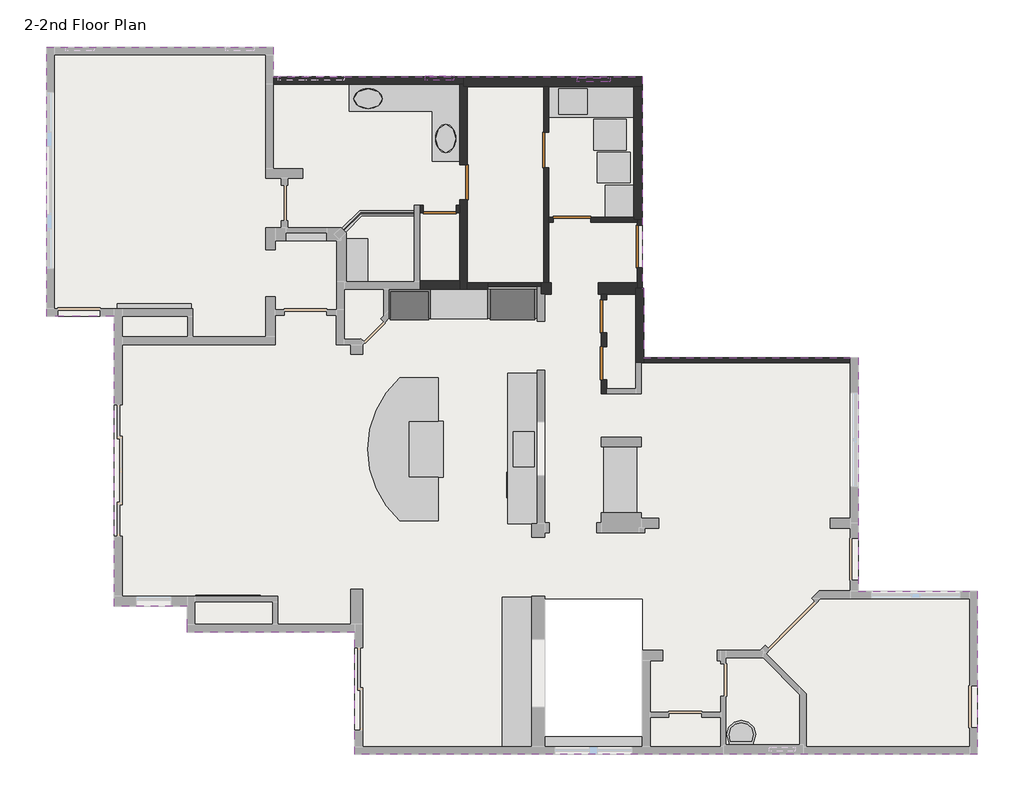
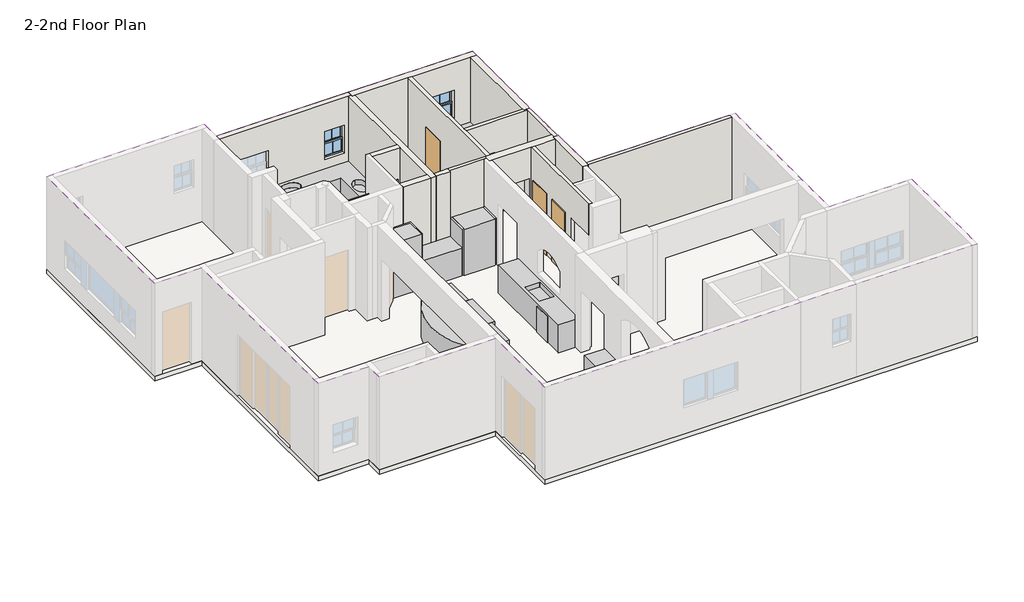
# One storey, part 3 of 3: 15 walls, 13 proxies, 10 furniture elements, 7 doors, 2 windows, 1 covering, 1 flow terminal, 1 slab.
"""IFC4 building model written with IfcOpenShell, lengths in millimetres."""

from ifc_helpers import new_model, si_unit, frame, origin, place, context, project, spatial, polyline, outline, extrude, faceted_brep, transform, mapped, element, save
from components import generic_models_10_generic_models_10_4ac16e84, generic_models_3_generic_models_3_54da6a1e, generic_models_4_generic_models_4_86da2cf7, generic_models_6_generic_models_6_da21bc6a, generic_models_7_generic_models_7_cedf5fbd, generic_models_8_generic_models_8_85dfdc42, generic_models_9_generic_models_6_d56854cf, specialty_equipment_1_specialty_equipment_1_6cf6217c, specialty_equipment_3_specialty_equipment_3_975726c7, specialty_equipment_4_specialty_equipment_4_003a8ce4, specialty_equipment_5_specialty_equipment_5_0c726e48, specialty_equipment_6_specialty_equipment_5_ca1720f7, door_64bc458f, door_f3367864, door_ae451de5, door_50b9832b, door_c53031d2, door_eaf6c470, plumbing_fixtures_1_plumbing_fixtures_1_25a78d79, casework_1_casework_1_72d0735e, casework_11_casework_11_a0dce881, casework_2_casework_2_51e8f1bf, casework_3_casework_3_68b1cbf8, casework_4_casework_4_209947f0, casework_5_casework_5_048c20d9, casework_6_casework_6_0ef7add9, casework_7_casework_7_954245c9, casework_8_casework_8_02e97182, casework_9_casework_9_592b6bdc, window_7c996b03, window_f0850236

model = new_model("IFC4")

# Units and contexts
model_context = context("Model", 3, world=origin())
ifc_project = project(units=[si_unit("LENGTHUNIT", "METRE", prefix="MILLI")], contexts=[model_context])

# Site, building, storey
site = spatial("IfcSite", under=ifc_project)
building = spatial("IfcBuilding", under=site)
storey = spatial("IfcBuildingStorey", under=building, Name="2-2nd Floor Plan", Elevation=3348.0)

# Proxies
placement = place(None, origin())
generic_models_10_generic_models_10_shape = generic_models_10_generic_models_10_4ac16e84(model_context)
element("IfcBuildingElementProxy", 1, Name="Generic Models 10 : Generic Models 10", ObjectType="Generic Models 10 : Generic Models 10", at=placement, inside=storey, context=model_context, shape_type="MappedRepresentation", body=[
    mapped(generic_models_10_generic_models_10_shape, transform((0.0, 0.0, 0.0), x_axis=(1.0, 0.0, 0.0), y_axis=(0.0, 1.0, 0.0), z_axis=(0.0, 0.0, 1.0))),
])
generic_models_3_generic_models_3_shape = generic_models_3_generic_models_3_54da6a1e(model_context)
element("IfcBuildingElementProxy", 2, Name="Generic Models 3 : Generic Models 3", ObjectType="Generic Models 3 : Generic Models 3", at=placement, inside=storey, context=model_context, shape_type="MappedRepresentation", body=[
    mapped(generic_models_3_generic_models_3_shape, transform((0.0, 0.0, 0.0), x_axis=(1.0, 0.0, 0.0), y_axis=(0.0, 1.0, 0.0), z_axis=(0.0, 0.0, 1.0))),
])
generic_models_4_generic_models_4_shape = generic_models_4_generic_models_4_86da2cf7(model_context)
element("IfcBuildingElementProxy", 3, Name="Generic Models 4 : Generic Models 4", ObjectType="Generic Models 4 : Generic Models 4", at=placement, inside=storey, context=model_context, shape_type="MappedRepresentation", body=[
    mapped(generic_models_4_generic_models_4_shape, transform((0.0, 0.0, 0.0), x_axis=(1.0, 0.0, 0.0), y_axis=(0.0, 1.0, 0.0), z_axis=(0.0, 0.0, 1.0))),
])
generic_models_6_generic_models_6_shape = generic_models_6_generic_models_6_da21bc6a(model_context)
element("IfcBuildingElementProxy", 4, Name="Generic Models 6 : Generic Models 6", ObjectType="Generic Models 6 : Generic Models 6", at=placement, inside=storey, context=model_context, shape_type="MappedRepresentation", body=[
    mapped(generic_models_6_generic_models_6_shape, transform((0.0, 0.0, 0.0), x_axis=(1.0, 0.0, 0.0), y_axis=(0.0, 1.0, 0.0), z_axis=(0.0, 0.0, 1.0))),
])
generic_models_7_generic_models_7_shape = generic_models_7_generic_models_7_cedf5fbd(model_context)
element("IfcBuildingElementProxy", 5, Name="Generic Models 7 : Generic Models 7", ObjectType="Generic Models 7 : Generic Models 7", at=placement, inside=storey, context=model_context, shape_type="MappedRepresentation", body=[
    mapped(generic_models_7_generic_models_7_shape, transform((0.0, 0.0, 0.0), x_axis=(1.0, 0.0, 0.0), y_axis=(0.0, 1.0, 0.0), z_axis=(0.0, 0.0, 1.0))),
])
generic_models_8_generic_models_8_shape = generic_models_8_generic_models_8_85dfdc42(model_context)
element("IfcBuildingElementProxy", 6, Name="Generic Models 8 : Generic Models 8", ObjectType="Generic Models 8 : Generic Models 8", at=placement, inside=storey, context=model_context, shape_type="MappedRepresentation", body=[
    mapped(generic_models_8_generic_models_8_shape, transform((0.0, 0.0, 0.0), x_axis=(1.0, 0.0, 0.0), y_axis=(0.0, 1.0, 0.0), z_axis=(0.0, 0.0, 1.0))),
])
generic_models_9_generic_models_6_shape = generic_models_9_generic_models_6_d56854cf(model_context)
element("IfcBuildingElementProxy", 7, Name="Generic Models 9 : Generic Models 6", ObjectType="Generic Models 9 : Generic Models 6", at=placement, inside=storey, context=model_context, shape_type="MappedRepresentation", body=[
    mapped(generic_models_9_generic_models_6_shape, transform((0.0, 0.0, 0.0), x_axis=(1.0, 0.0, 0.0), y_axis=(0.0, 1.0, 0.0), z_axis=(0.0, 0.0, 1.0))),
])
specialty_equipment_1_specialty_equipment_1_shape = specialty_equipment_1_specialty_equipment_1_6cf6217c(model_context)
element("IfcBuildingElementProxy", 8, Name="Specialty Equipment 1 : Specialty Equipment 1", ObjectType="Specialty Equipment 1 : Specialty Equipment 1", at=placement, inside=storey, context=model_context, shape_type="MappedRepresentation", body=[
    mapped(specialty_equipment_1_specialty_equipment_1_shape, transform((0.0, 0.0, 0.0), x_axis=(1.0, 0.0, 0.0), y_axis=(0.0, 1.0, 0.0), z_axis=(0.0, 0.0, 1.0))),
])
element("IfcBuildingElementProxy", 9, Name="Specialty Equipment 2 : Specialty Equipment 1", ObjectType="Specialty Equipment 2 : Specialty Equipment 1", at=placement, inside=storey, context=model_context, shape_type="MappedRepresentation", body=[
    mapped(specialty_equipment_1_specialty_equipment_1_shape, transform((76.2, -711.1999987, 0.0), x_axis=(1.0, 0.0, 0.0), y_axis=(0.0, 1.0, 0.0), z_axis=(0.0, 0.0, 1.0))),
])
specialty_equipment_3_specialty_equipment_3_shape = specialty_equipment_3_specialty_equipment_3_975726c7(model_context)
element("IfcBuildingElementProxy", 10, Name="Specialty Equipment 3 : Specialty Equipment 3", ObjectType="Specialty Equipment 3 : Specialty Equipment 3", at=placement, inside=storey, context=model_context, shape_type="MappedRepresentation", body=[
    mapped(specialty_equipment_3_specialty_equipment_3_shape, transform((0.0, 0.0, 0.0), x_axis=(1.0, 0.0, 0.0), y_axis=(0.0, 1.0, 0.0), z_axis=(0.0, 0.0, 1.0))),
])
specialty_equipment_4_specialty_equipment_4_shape = specialty_equipment_4_specialty_equipment_4_003a8ce4(model_context)
element("IfcBuildingElementProxy", 11, Name="Specialty Equipment 4 : Specialty Equipment 4", ObjectType="Specialty Equipment 4 : Specialty Equipment 4", at=placement, inside=storey, context=model_context, shape_type="MappedRepresentation", body=[
    mapped(specialty_equipment_4_specialty_equipment_4_shape, transform((0.0, 0.0, 0.0), x_axis=(1.0, 0.0, 0.0), y_axis=(0.0, 1.0, 0.0), z_axis=(0.0, 0.0, 1.0))),
])
specialty_equipment_5_specialty_equipment_5_shape = specialty_equipment_5_specialty_equipment_5_0c726e48(model_context)
element("IfcBuildingElementProxy", 12, Name="Specialty Equipment 5 : Specialty Equipment 5", ObjectType="Specialty Equipment 5 : Specialty Equipment 5", at=placement, inside=storey, context=model_context, shape_type="MappedRepresentation", body=[
    mapped(specialty_equipment_5_specialty_equipment_5_shape, transform((0.0, 0.0, 0.0), x_axis=(1.0, 0.0, 0.0), y_axis=(0.0, 1.0, 0.0), z_axis=(0.0, 0.0, 1.0))),
])
specialty_equipment_6_specialty_equipment_5_shape = specialty_equipment_6_specialty_equipment_5_ca1720f7(model_context)
element("IfcBuildingElementProxy", 13, Name="Specialty Equipment 6 : Specialty Equipment 5", ObjectType="Specialty Equipment 6 : Specialty Equipment 5", at=placement, inside=storey, context=model_context, shape_type="MappedRepresentation", body=[
    mapped(specialty_equipment_6_specialty_equipment_5_shape, transform((0.0, 0.0, 0.0), x_axis=(1.0, 0.0, 0.0), y_axis=(0.0, 1.0, 0.0), z_axis=(0.0, 0.0, 1.0))),
])

# Covering
element("IfcCovering", 14, ObjectType="Ceiling_5.9\"", at=placement, inside=storey, context=model_context, shape_type="SweptSolid", body=[
    extrude(outline(polyline([(-6661.15, 9461.5), (-6661.15, 15278.1), (-1758.95, 15278.1), (-1758.95, 14642.9947939), (6210.3, 14642.9947939), (6210.3, 10064.6447939), (6235.7, 10064.6447939), (6235.7, 8572.5), (10871.2, 8572.5), (10871.2, 3524.25), (13449.3, 3524.25), (13449.3, 0.0), (0.0, 0.0), (0.0, 2641.6), (-3619.5, 2641.6), (-3619.5, 3200.4), (-5194.3, 3200.4), (-5194.3, 9461.5), (-6661.15, 9461.5)])), frame((0.0, 0.0, 6396.0), z_axis=(0.0, 0.0, 1.0), x_axis=(1.0, 0.0, 0.0)), (0.0, 0.0, 1.0), 150.0),
])

# Doors
door_shape = door_64bc458f(model_context)
element("IfcDoor", 15, ObjectType="Door_1 : 2'-4\" X 6'-8\"", at=placement, inside=storey, context=model_context, shape_type="MappedRepresentation", body=[
    mapped(door_shape, transform((5378.45, 9461.3947939, 3348.0), x_axis=(0.0, -1.0, 0.0), y_axis=(1.0, 0.0, 0.0), z_axis=(0.0, 0.0, 1.0))),
])
element("IfcDoor", 16, ObjectType="Door_1 : 2'-4\" X 6'-8\"", at=placement, inside=storey, context=model_context, shape_type="MappedRepresentation", body=[
    mapped(door_shape, transform((5378.45, 8445.3947939, 3348.0), x_axis=(0.0, -1.0, 0.0), y_axis=(1.0, 0.0, 0.0), z_axis=(0.0, 0.0, 1.0))),
])
door_2_shape = door_f3367864(model_context)
element("IfcDoor", 17, ObjectType="Door_1 : 2'-4\" X 6'-8\"", at=placement, inside=storey, context=model_context, shape_type="MappedRepresentation", body=[
    mapped(door_2_shape, transform((1828.8, 11779.1447939, 3348.0), x_axis=(1.0, 0.0, 0.0), y_axis=(0.0, 1.0, 0.0), z_axis=(0.0, 0.0, 1.0))),
])
door_3_shape = door_ae451de5(model_context)
element("IfcDoor", 18, ObjectType="Door_1 : 2'-6\" X 6'-8\"", at=placement, inside=storey, context=model_context, shape_type="MappedRepresentation", body=[
    mapped(door_3_shape, transform((4133.85, 13055.4947939, 3348.0), x_axis=(0.0, 1.0, 0.0), y_axis=(-1.0, 0.0, 0.0), z_axis=(0.0, 0.0, 1.0))),
])
door_4_shape = door_50b9832b(model_context)
element("IfcDoor", 19, ObjectType="Door_1 : 2'-6\" X 6'-8\"", at=placement, inside=storey, context=model_context, shape_type="MappedRepresentation", body=[
    mapped(door_4_shape, transform((2343.15, 12356.9947939, 3348.0), x_axis=(0.0, -1.0, 0.0), y_axis=(1.0, 0.0, 0.0), z_axis=(0.0, 0.0, 1.0))),
])
door_5_shape = door_c53031d2(model_context)
element("IfcDoor", 20, ObjectType="Door_1 : 2'-8\" X 6'-8\"", at=placement, inside=storey, context=model_context, shape_type="MappedRepresentation", body=[
    mapped(door_5_shape, transform((4692.65, 11550.5447939, 3348.0), x_axis=(-1.0, 0.0, 0.0), y_axis=(0.0, -1.0, 0.0), z_axis=(0.0, 0.0, 1.0))),
])
door_6_shape = door_eaf6c470(model_context)
element("IfcDoor", 21, ObjectType="Door_1 : 3'-0\" X 6'-8\"", at=placement, inside=storey, context=model_context, shape_type="MappedRepresentation", body=[
    mapped(door_6_shape, transform((6153.15, 10972.6947939, 3348.0), x_axis=(0.0, 1.0, 0.0), y_axis=(-1.0, 0.0, 0.0), z_axis=(0.0, 0.0, 1.0))),
])

# Flow terminal
plumbing_fixtures_1_plumbing_fixtures_1_shape = plumbing_fixtures_1_plumbing_fixtures_1_25a78d79(model_context)
element("IfcFlowTerminal", 22, ObjectType="Plumbing Fixtures 1 : Plumbing Fixtures 1", at=placement, inside=storey, context=model_context, shape_type="MappedRepresentation", body=[
    mapped(plumbing_fixtures_1_plumbing_fixtures_1_shape, transform((0.0, 0.0, 0.0), x_axis=(1.0, 0.0, 0.0), y_axis=(0.0, 1.0, 0.0), z_axis=(0.0, 0.0, 1.0))),
])

# Furniture
casework_1_casework_1_shape = casework_1_casework_1_72d0735e(model_context)
element("IfcFurniture", 23, ObjectType="Casework 1 : Casework 1", at=placement, inside=storey, context=model_context, shape_type="MappedRepresentation", body=[
    mapped(casework_1_casework_1_shape, transform((0.0, 0.0, 0.0), x_axis=(1.0, 0.0, 0.0), y_axis=(0.0, 1.0, 0.0), z_axis=(0.0, 0.0, 1.0))),
])
casework_11_casework_11_shape = casework_11_casework_11_a0dce881(model_context)
element("IfcFurniture", 24, ObjectType="Casework 11 : Casework 11", at=placement, inside=storey, context=model_context, shape_type="MappedRepresentation", body=[
    mapped(casework_11_casework_11_shape, transform((0.0, 0.0, 0.0), x_axis=(1.0, 0.0, 0.0), y_axis=(0.0, 1.0, 0.0), z_axis=(0.0, 0.0, 1.0))),
])
casework_2_casework_2_shape = casework_2_casework_2_51e8f1bf(model_context)
element("IfcFurniture", 25, ObjectType="Casework 2 : Casework 2", at=placement, inside=storey, context=model_context, shape_type="MappedRepresentation", body=[
    mapped(casework_2_casework_2_shape, transform((0.0, 0.0, 0.0), x_axis=(1.0, 0.0, 0.0), y_axis=(0.0, 1.0, 0.0), z_axis=(0.0, 0.0, 1.0))),
])
casework_3_casework_3_shape = casework_3_casework_3_68b1cbf8(model_context)
element("IfcFurniture", 26, ObjectType="Casework 3 : Casework 3", at=placement, inside=storey, context=model_context, shape_type="MappedRepresentation", body=[
    mapped(casework_3_casework_3_shape, transform((0.0, 0.0, 0.0), x_axis=(1.0, 0.0, 0.0), y_axis=(0.0, 1.0, 0.0), z_axis=(0.0, 0.0, 1.0))),
])
casework_4_casework_4_shape = casework_4_casework_4_209947f0(model_context)
element("IfcFurniture", 27, ObjectType="Casework 4 : Casework 4", at=placement, inside=storey, context=model_context, shape_type="MappedRepresentation", body=[
    mapped(casework_4_casework_4_shape, transform((0.0, 0.0, 0.0), x_axis=(1.0, 0.0, 0.0), y_axis=(0.0, 1.0, 0.0), z_axis=(0.0, 0.0, 1.0))),
])
casework_5_casework_5_shape = casework_5_casework_5_048c20d9(model_context)
element("IfcFurniture", 28, ObjectType="Casework 5 : Casework 5", at=placement, inside=storey, context=model_context, shape_type="MappedRepresentation", body=[
    mapped(casework_5_casework_5_shape, transform((0.0, 0.0, 0.0), x_axis=(1.0, 0.0, 0.0), y_axis=(0.0, 1.0, 0.0), z_axis=(0.0, 0.0, 1.0))),
])
casework_6_casework_6_shape = casework_6_casework_6_0ef7add9(model_context)
element("IfcFurniture", 29, ObjectType="Casework 6 : Casework 6", at=placement, inside=storey, context=model_context, shape_type="MappedRepresentation", body=[
    mapped(casework_6_casework_6_shape, transform((0.0, 0.0, 0.0), x_axis=(1.0, 0.0, 0.0), y_axis=(0.0, 1.0, 0.0), z_axis=(0.0, 0.0, 1.0))),
])
casework_7_casework_7_shape = casework_7_casework_7_954245c9(model_context)
element("IfcFurniture", 30, ObjectType="Casework 7 : Casework 7", at=placement, inside=storey, context=model_context, shape_type="MappedRepresentation", body=[
    mapped(casework_7_casework_7_shape, transform((0.0, 0.0, 0.0), x_axis=(1.0, 0.0, 0.0), y_axis=(0.0, 1.0, 0.0), z_axis=(0.0, 0.0, 1.0))),
])
casework_8_casework_8_shape = casework_8_casework_8_02e97182(model_context)
element("IfcFurniture", 31, ObjectType="Casework 8 : Casework 8", at=placement, inside=storey, context=model_context, shape_type="MappedRepresentation", body=[
    mapped(casework_8_casework_8_shape, transform((0.0, 0.0, 0.0), x_axis=(1.0, 0.0, 0.0), y_axis=(0.0, 1.0, 0.0), z_axis=(0.0, 0.0, 1.0))),
])
casework_9_casework_9_shape = casework_9_casework_9_592b6bdc(model_context)
element("IfcFurniture", 32, ObjectType="Casework 9 : Casework 9", at=placement, inside=storey, context=model_context, shape_type="MappedRepresentation", body=[
    mapped(casework_9_casework_9_shape, transform((0.0, 0.0, 0.0), x_axis=(1.0, 0.0, 0.0), y_axis=(0.0, 1.0, 0.0), z_axis=(0.0, 0.0, 1.0))),
])

# Slab
element("IfcSlab", 33, ObjectType="Floor:Floor_5.9\"", at=placement, inside=storey, context=model_context, shape_type="SweptSolid", body=[
    extrude(outline(polyline([(-6661.15, 9461.5), (-6661.15, 15278.1), (-1758.95, 15278.1), (-1758.95, 14642.9947939), (6210.3, 14642.9947939), (6210.3, 10064.6447939), (6235.7, 10064.6447939), (6235.7, 8572.5), (10871.2, 8572.5), (10871.2, 3524.25), (13449.3, 3524.25), (13449.3, 0.0), (0.0, 0.0), (0.0, 2641.6), (-3619.5, 2641.6), (-3619.5, 3200.4), (-5194.3, 3200.4), (-5194.3, 9461.5), (-6661.15, 9461.5)]), holes=[polyline([(4102.1, 3352.8), (4102.1, 165.1), (6210.3, 165.1), (6210.3, 3352.8), (4102.1, 3352.8)])]), frame((0.0, 0.0, 3198.0), z_axis=(0.0, 0.0, 1.0), x_axis=(1.0, 0.0, 0.0)), (0.0, 0.0, 1.0), 150.0),
])

# Walls
element("IfcWall", 34, ObjectType="Wall_3.5\"", at=placement, inside=storey, context=model_context, shape_type="Brep", body=[
    faceted_brep([(2870.2, 10096.5, 3348.0), (3937.0, 10096.5, 3348.0), (4019.55, 10096.5, 3348.0), (4019.55, 10096.5, 6396.0), (3937.0, 10096.5, 6396.0), (2870.2, 10096.5, 6396.0), (2870.2, 10185.4, 3348.0), (2870.2, 10185.4, 6396.0), (4019.55, 10185.4, 6396.0), (4019.55, 10185.4, 3348.0)], [[[0, 1, 2, 3, 4, 5]], [[6, 7, 8, 9]], [[2, 1, 0, 6, 9]], [[3, 2, 9, 8]], [[5, 4, 3, 8, 7]], [[0, 5, 7, 6]]]),
])
element("IfcWall", 35, ObjectType="Wall_4.5\"", at=placement, inside=storey, context=model_context, shape_type="Brep", body=[
    faceted_brep([(6096.0, 11550.5447939, 3348.0), (6096.0, 11493.3947939, 3348.0), (6096.0, 11429.8947939, 3348.0), (6096.0, 11429.8947939, 5380.0), (6096.0, 10515.4947939, 5380.0), (6096.0, 10515.4947939, 3348.0), (6096.0, 10185.2947939, 3348.0), (6096.0, 10064.6447939, 3348.0), (6096.0, 10064.6447939, 6396.0), (6096.0, 10185.2947939, 6396.0), (6096.0, 11493.3947939, 6396.0), (6096.0, 11550.5447939, 6396.0), (6210.3, 11429.8947939, 5380.0), (6210.3, 11429.8947939, 3348.0), (6210.3, 11550.5447939, 3348.0), (6210.3, 11550.5447939, 6396.0), (6210.3, 10064.6447939, 6396.0), (6210.3, 10064.6447939, 3348.0), (6210.3, 10515.4947939, 3348.0), (6210.3, 10515.4947939, 5380.0)], [[[0, 1, 2, 3, 4, 5, 6, 7, 8, 9, 10, 11]], [[12, 13, 14, 15, 16, 17, 18, 19]], [[18, 17, 7, 6, 5]], [[14, 13, 2, 1, 0]], [[8, 7, 17, 16]], [[11, 10, 9, 8, 16, 15]], [[0, 11, 15, 14]], [[3, 2, 13, 12]], [[4, 3, 12, 19]], [[5, 4, 19, 18]]]),
])
element("IfcWall", 36, ObjectType="Wall_4.5\"", at=placement, inside=storey, context=model_context, shape_type="SweptSolid", body=[
    extrude(outline(polyline([(6235.7, 8572.5), (10706.1, 8572.5), (10706.1, 8458.2), (6235.7, 8458.2), (6235.7, 8572.5)])), frame((0.0, 0.0, 3348.0), z_axis=(0.0, 0.0, 1.0), x_axis=(1.0, 0.0, 0.0)), (0.0, 0.0, 1.0), 3048.0),
])
element("IfcWall", 37, ObjectType="Wall_4.5\"", at=placement, inside=storey, context=model_context, shape_type="Brep", body=[
    faceted_brep([(4076.7, 14427.0947939, 3348.0), (4076.7, 13436.4947939, 3348.0), (4076.7, 13436.4947939, 5380.0), (4076.7, 12674.4947939, 5380.0), (4076.7, 12674.4947939, 3348.0), (4076.7, 10185.2947939, 3348.0), (4076.7, 10185.2947939, 6396.0), (4076.7, 14427.0947939, 6396.0), (4191.0, 13436.4947939, 5380.0), (4191.0, 13436.4947939, 3348.0), (4191.0, 14427.0947939, 3348.0), (4191.0, 14427.0947939, 6396.0), (4191.0, 11607.6947939, 6396.0), (4191.0, 11493.3947939, 6396.0), (4191.0, 10185.2947939, 6396.0), (4191.0, 10185.2947939, 3348.0), (4191.0, 11493.3947939, 3348.0), (4191.0, 11607.6947939, 3348.0), (4191.0, 12674.4947939, 3348.0), (4191.0, 12674.4947939, 5380.0)], [[[0, 1, 2, 3, 4, 5, 6, 7]], [[8, 9, 10, 11, 12, 13, 14, 15, 16, 17, 18, 19]], [[10, 9, 1, 0]], [[18, 17, 16, 15, 5, 4]], [[7, 6, 14, 13, 12, 11]], [[0, 7, 11, 10]], [[2, 1, 9, 8]], [[3, 2, 8, 19]], [[4, 3, 19, 18]], [[6, 5, 15, 14]]]),
])
element("IfcWall", 38, ObjectType="Wall_4.5\"", at=placement, inside=storey, context=model_context, shape_type="Brep", body=[
    faceted_brep([(4286.25, 11607.6947939, 5380.0), (4286.25, 11607.6947939, 3348.0), (4191.0, 11607.6947939, 3348.0), (4191.0, 11607.6947939, 6396.0), (6019.8, 11607.6947939, 6396.0), (6019.8, 11607.6947939, 3348.0), (5099.05, 11607.6947939, 3348.0), (5099.05, 11607.6947939, 5380.0), (4191.0, 11493.3947939, 3348.0), (4286.25, 11493.3947939, 3348.0), (4286.25, 11493.3947939, 5380.0), (5099.05, 11493.3947939, 5380.0), (5099.05, 11493.3947939, 3348.0), (6096.0, 11493.3947939, 3348.0), (6096.0, 11493.3947939, 6396.0), (4191.0, 11493.3947939, 6396.0), (6019.8, 11550.5447939, 3348.0), (6096.0, 11550.5447939, 3348.0), (6096.0, 11550.5447939, 6396.0), (6019.8, 11550.5447939, 6396.0)], [[[0, 1, 2, 3, 4, 5, 6, 7]], [[8, 9, 10, 11, 12, 13, 14, 15]], [[6, 5, 16, 17, 13, 12]], [[2, 1, 9, 8]], [[4, 3, 15, 14, 18, 19]], [[5, 4, 19, 16]], [[19, 18, 17, 16]], [[18, 14, 13, 17]], [[3, 2, 8, 15]], [[10, 9, 1, 0]], [[11, 10, 0, 7]], [[12, 11, 7, 6]]]),
])
element("IfcWall", 39, ObjectType="Wall_4.5\"", at=placement, inside=storey, context=model_context, shape_type="Brep", body=[
    faceted_brep([(5435.6, 9943.9947939, 6396.0), (5435.6, 7899.2947939, 6396.0), (5435.6, 7784.9947939, 6396.0), (5435.6, 6845.1947939, 6396.0), (5435.6, 6845.1947939, 5380.0), (5435.6, 7784.9947939, 5380.0), (5435.6, 7784.9947939, 3348.0), (5435.6, 7899.2947939, 3348.0), (5435.6, 8089.7947939, 3348.0), (5435.6, 8089.7947939, 5380.0), (5435.6, 8800.9947939, 5380.0), (5435.6, 8800.9947939, 3348.0), (5435.6, 9105.7947939, 3348.0), (5435.6, 9105.7947939, 5380.0), (5435.6, 9816.9947939, 5380.0), (5435.6, 9816.9947939, 3348.0), (5435.6, 9943.9947939, 3348.0), (5321.3, 6845.1947939, 6396.0), (5321.3, 9943.9947939, 6396.0), (5321.3, 9943.9947939, 3348.0), (5321.3, 9816.9947939, 3348.0), (5321.3, 9816.9947939, 5380.0), (5321.3, 9105.7947939, 5380.0), (5321.3, 9105.7947939, 3348.0), (5321.3, 8800.9947939, 3348.0), (5321.3, 8800.9947939, 5380.0), (5321.3, 8089.7947939, 5380.0), (5321.3, 8089.7947939, 3348.0), (5321.3, 7784.9947939, 3348.0), (5321.3, 7784.9947939, 5380.0), (5321.3, 6845.1947939, 5380.0)], [[[0, 1, 2, 3, 4, 5, 6, 7, 8, 9, 10, 11, 12, 13, 14, 15, 16]], [[17, 18, 19, 20, 21, 22, 23, 24, 25, 26, 27, 28, 29, 30]], [[19, 16, 15, 20]], [[23, 12, 11, 24]], [[27, 8, 7, 6, 28]], [[3, 2, 1, 0, 18, 17]], [[0, 16, 19, 18]], [[15, 14, 21, 20]], [[14, 13, 22, 21]], [[13, 12, 23, 22]], [[11, 10, 25, 24]], [[10, 9, 26, 25]], [[9, 8, 27, 26]], [[3, 17, 30, 4]], [[29, 5, 4, 30]], [[5, 29, 28, 6]]]),
])
element("IfcWall", 40, ObjectType="Wall_5.5\"", at=placement, inside=storey, context=model_context, shape_type="Brep", body=[
    faceted_brep([(2425.7, 10045.7, 3348.0), (2870.2, 10045.7, 3348.0), (2870.2, 10045.7, 6396.0), (2425.7, 10045.7, 6396.0), (2425.7, 10185.4, 3348.0), (2425.7, 10185.4, 6396.0), (2870.2, 10185.4, 6396.0), (2870.2, 10185.4, 3348.0), (2870.2, 10096.5, 3348.0), (2870.2, 10096.5, 6396.0)], [[[0, 1, 2, 3]], [[4, 5, 6, 7]], [[1, 0, 4, 7, 8]], [[2, 1, 8, 7, 6, 9]], [[3, 2, 9, 6, 5]], [[0, 3, 5, 4]]]),
])
element("IfcWall", 41, ObjectType="Wall_6.5\"", at=placement, inside=storey, context=model_context, shape_type="Brep", body=[
    faceted_brep([(-1758.95, 14477.8947939, 3348.0), (2260.6, 14477.8947939, 3348.0), (2343.15, 14477.8947939, 3348.0), (2343.15, 14477.8947939, 6396.0), (2260.6, 14477.8947939, 6396.0), (-1758.95, 14477.8947939, 6396.0), (1524.0, 14477.8947939, 5481.6), (2133.6, 14477.8947939, 5481.6), (2133.6, 14477.8947939, 4567.2), (1524.0, 14477.8947939, 4567.2), (-1651.0, 14477.8947939, 5481.6), (-228.6, 14477.8947939, 5481.6), (-228.6, 14477.8947939, 4567.2), (-1651.0, 14477.8947939, 4567.2), (-1758.95, 14642.9947939, 3348.0), (-1758.95, 14642.9947939, 6396.0), (2343.15, 14642.9947939, 6396.0), (2343.15, 14642.9947939, 3348.0), (1524.0, 14642.9947939, 5481.6), (1524.0, 14642.9947939, 4567.2), (2133.6, 14642.9947939, 4567.2), (2133.6, 14642.9947939, 5481.6), (-1651.0, 14642.9947939, 5481.6), (-1651.0, 14642.9947939, 4567.2), (-228.6, 14642.9947939, 4567.2), (-228.6, 14642.9947939, 5481.6)], [[[0, 1, 2, 3, 4, 5], [6, 7, 8, 9], [10, 11, 12, 13]], [[14, 15, 16, 17], [18, 19, 20, 21], [22, 23, 24, 25]], [[2, 1, 0, 14, 17]], [[3, 2, 17, 16]], [[5, 4, 3, 16, 15]], [[0, 5, 15, 14]], [[19, 18, 6, 9]], [[20, 19, 9, 8]], [[21, 20, 8, 7]], [[18, 21, 7, 6]], [[23, 22, 10, 13]], [[24, 23, 13, 12]], [[25, 24, 12, 11]], [[22, 25, 11, 10]]]),
])
element("IfcWall", 42, ObjectType="Wall_6.5\"", at=placement, inside=storey, context=model_context, shape_type="Brep", body=[
    faceted_brep([(6070.6, 10064.6447939, 3348.0), (6070.6, 9943.9947939, 3348.0), (6070.6, 8458.2, 3348.0), (6070.6, 8458.2, 6396.0), (6070.6, 9943.9947939, 6396.0), (6070.6, 10064.6447939, 6396.0), (6235.7, 10064.6447939, 3348.0), (6235.7, 10064.6447939, 6396.0), (6235.7, 8572.5, 6396.0), (6235.7, 8458.2, 6396.0), (6235.7, 8458.2, 3348.0), (6235.7, 8572.5, 3348.0), (6096.0, 10064.6447939, 3348.0), (6210.3, 10064.6447939, 3348.0), (6184.8999991, 8458.2, 3348.0), (6184.8999991, 8458.2, 6396.0), (6210.3, 10064.6447939, 6396.0), (6096.0, 10064.6447939, 6396.0)], [[[0, 1, 2, 3, 4, 5]], [[6, 7, 8, 9, 10, 11]], [[2, 1, 0, 12, 13, 6, 11, 10, 14]], [[5, 4, 3, 15, 9, 8, 7, 16, 17]], [[0, 5, 17, 16, 7, 6, 13, 12]], [[3, 2, 14, 10, 9, 15]]]),
])
element("IfcWall", 43, ObjectType="Wall_6.5\"", at=placement, inside=storey, context=model_context, shape_type="SweptSolid", body=[
    extrude(outline(polyline([(5380.0, 2184.4), (3348.0, 2184.4), (3348.0, 2260.6), (6396.0, 2260.6), (6396.0, 1397.0), (3348.0, 1397.0), (3348.0, 1473.2), (5380.0, 1473.2), (5380.0, 2184.4)])), frame((0.0, 11696.5947939, 0.0), z_axis=(0.0, 1.0, 0.0), x_axis=(0.0, 0.0, 1.0)), (0.0, 0.0, 1.0), 165.1),
])
element("IfcWall", 44, ObjectType="Wall_6.5\"", at=placement, inside=storey, context=model_context, shape_type="Brep", body=[
    faceted_brep([(2425.7, 10045.7, 3348.0), (2425.7, 10185.4, 3348.0), (2425.7, 11975.9947939, 3348.0), (2425.7, 11975.9947939, 5380.0), (2425.7, 12737.9947939, 5380.0), (2425.7, 12737.9947939, 3348.0), (2425.7, 14427.0947939, 3348.0), (2425.7, 14427.0947939, 6396.0), (2425.7, 10185.4, 6396.0), (2425.7, 10045.7, 6396.0), (2260.6, 11975.9947939, 5380.0), (2260.6, 11975.9947939, 3348.0), (2260.6, 11861.6947939, 3348.0), (2260.6, 11696.5947939, 3348.0), (2260.6, 10236.2, 3348.0), (2260.6, 10045.7, 3348.0), (2260.6, 10045.7, 6396.0), (2260.6, 10236.2, 6396.0), (2260.6, 11696.5947939, 6396.0), (2260.6, 11861.6947939, 6396.0), (2260.6, 14477.8947939, 6396.0), (2260.6, 14477.8947939, 3348.0), (2260.6, 12737.9947939, 3348.0), (2260.6, 12737.9947939, 5380.0), (2343.15, 14477.8947939, 3348.0), (2343.15, 14427.0947939, 3348.0), (2343.15, 14427.0947939, 6396.0), (2343.15, 14477.8947939, 6396.0)], [[[0, 1, 2, 3, 4, 5, 6, 7, 8, 9]], [[10, 11, 12, 13, 14, 15, 16, 17, 18, 19, 20, 21, 22, 23]], [[22, 21, 24, 25, 6, 5]], [[15, 14, 13, 12, 11, 2, 1, 0]], [[9, 8, 7, 26, 27, 20, 19, 18, 17, 16]], [[0, 9, 16, 15]], [[7, 6, 25, 26]], [[25, 24, 27, 26]], [[24, 21, 20, 27]], [[3, 2, 11, 10]], [[4, 3, 10, 23]], [[5, 4, 23, 22]]]),
])
element("IfcWall", 45, ObjectType="Wall_7.5\"", at=placement, inside=storey, context=model_context, shape_type="Brep", body=[
    faceted_brep([(6019.8, 14427.0947939, 3348.0), (6019.8, 11607.6947939, 3348.0), (6019.8, 11550.5447939, 3348.0), (6019.8, 11550.5447939, 6396.0), (6019.8, 11607.6947939, 6396.0), (6019.8, 14427.0947939, 6396.0), (6019.8, 13449.1947939, 4364.0), (6019.8, 13652.3947939, 4364.0), (6019.8, 13652.3947939, 4516.4), (6019.8, 13449.1947939, 4516.4), (6210.3, 11550.5447939, 3348.0), (6210.3, 14427.0947939, 3348.0), (6210.3, 14427.0947939, 6396.0), (6210.3, 11550.5447939, 6396.0), (6096.0, 11550.5447939, 3348.0), (6096.0, 11550.5447939, 6396.0), (6096.0, 13449.1947939, 4364.0), (6096.0, 13652.3947939, 4364.0), (6096.0, 13652.3947939, 4516.4), (6096.0, 13449.1947939, 4516.4)], [[[0, 1, 2, 3, 4, 5], [6, 7, 8, 9]], [[10, 11, 12, 13]], [[2, 1, 0, 11, 10, 14]], [[3, 2, 14, 10, 13, 15]], [[5, 4, 3, 15, 13, 12]], [[0, 5, 12, 11]], [[6, 16, 17, 7]], [[8, 18, 19, 9]], [[16, 6, 9, 19]], [[17, 16, 19, 18]], [[7, 17, 18, 8]]]),
])
element("IfcWall", 46, ObjectType="Wall_7.5\"", at=placement, inside=storey, context=model_context, shape_type="Brep", body=[
    faceted_brep([(1397.0, 10045.7, 3348.0), (2260.6, 10045.7, 3348.0), (2260.6, 10045.7, 6396.0), (1397.0, 10045.7, 6396.0), (1397.0, 10236.2, 3348.0), (1397.0, 10236.2, 6396.0), (2260.6, 10236.2, 6396.0), (2260.6, 10236.2, 3348.0), (1397.0, 10210.8, 3348.0), (1397.0, 10210.8, 6396.0)], [[[0, 1, 2, 3]], [[4, 5, 6, 7]], [[1, 0, 8, 4, 7]], [[3, 2, 6, 5, 9]], [[0, 3, 9, 5, 4, 8]], [[2, 1, 7, 6]]]),
])
element("IfcWall", 47, ObjectType="Wall_8.5\"", at=placement, inside=storey, context=model_context, shape_type="Brep", body=[
    faceted_brep([(2343.15, 14427.0947939, 3348.0), (2425.7, 14427.0947939, 3348.0), (4076.7, 14427.0947939, 3348.0), (4191.0, 14427.0947939, 3348.0), (6019.8, 14427.0947939, 3348.0), (6210.3, 14427.0947939, 3348.0), (6210.3, 14427.0947939, 6396.0), (6019.8, 14427.0947939, 6396.0), (4191.0, 14427.0947939, 6396.0), (4076.7, 14427.0947939, 6396.0), (2425.7, 14427.0947939, 6396.0), (2343.15, 14427.0947939, 6396.0), (4800.6, 14427.0947939, 5481.6), (5511.8, 14427.0947939, 5481.6), (5511.8, 14427.0947939, 4567.2), (4800.6, 14427.0947939, 4567.2), (2343.15, 14642.9947939, 3348.0), (2343.15, 14642.9947939, 6396.0), (6210.3, 14642.9947939, 6396.0), (6210.3, 14642.9947939, 3348.0), (4800.6, 14642.9947939, 5481.6), (4800.6, 14642.9947939, 4567.2), (5511.8, 14642.9947939, 4567.2), (5511.8, 14642.9947939, 5481.6), (2343.15, 14477.8947939, 3348.0), (2343.15, 14477.8947939, 6396.0)], [[[0, 1, 2, 3, 4, 5, 6, 7, 8, 9, 10, 11], [12, 13, 14, 15]], [[16, 17, 18, 19], [20, 21, 22, 23]], [[5, 4, 3, 2, 1, 0, 24, 16, 19]], [[11, 10, 9, 8, 7, 6, 18, 17, 25]], [[0, 11, 25, 17, 16, 24]], [[6, 5, 19, 18]], [[21, 20, 12, 15]], [[22, 21, 15, 14]], [[23, 22, 14, 13]], [[20, 23, 13, 12]]]),
])
element("IfcWall", 48, ObjectType="Wall_9.5\"", at=placement, inside=storey, context=model_context, shape_type="Brep", body=[
    faceted_brep([(6096.0, 10185.2947939, 3348.0), (5257.8, 10185.2947939, 3348.0), (5257.8, 10185.2947939, 5380.0), (4241.8, 10185.2947939, 5380.0), (4241.8, 10185.2947939, 3348.0), (4191.0, 10185.2947939, 3348.0), (4076.7, 10185.2947939, 3348.0), (4019.55, 10185.2947939, 3348.0), (4019.55, 10185.2947939, 6396.0), (4076.7, 10185.2947939, 6396.0), (4191.0, 10185.2947939, 6396.0), (6096.0, 10185.2947939, 6396.0), (5257.8, 9943.9947939, 5380.0), (5257.8, 9943.9947939, 3348.0), (5321.3, 9943.9947939, 3348.0), (5435.6, 9943.9947939, 3348.0), (6070.6, 9943.9947939, 3348.0), (6070.6, 9943.9947939, 6396.0), (5435.6, 9943.9947939, 6396.0), (5321.3, 9943.9947939, 6396.0), (4102.1, 9943.9947939, 6396.0), (4019.55, 9943.9947939, 6396.0), (4019.55, 9943.9947939, 3348.0), (4102.1, 9943.9947939, 3348.0), (4241.8, 9943.9947939, 3348.0), (4241.8, 9943.9947939, 5380.0), (4019.55, 10096.5, 3348.0), (6096.0, 10064.6447939, 3348.0), (6070.6, 10064.6447939, 3348.0), (4019.55, 10096.5, 6396.0), (6070.6, 10064.6447939, 6396.0), (6096.0, 10064.6447939, 6396.0)], [[[0, 1, 2, 3, 4, 5, 6, 7, 8, 9, 10, 11]], [[12, 13, 14, 15, 16, 17, 18, 19, 20, 21, 22, 23, 24, 25]], [[24, 23, 22, 26, 7, 6, 5, 4]], [[16, 15, 14, 13, 1, 0, 27, 28]], [[8, 7, 26, 22, 21, 29]], [[11, 10, 9, 8, 29, 21, 20, 19, 18, 17, 30, 31]], [[0, 11, 31, 27]], [[31, 30, 28, 27]], [[30, 17, 16, 28]], [[2, 1, 13, 12]], [[4, 3, 25, 24]], [[3, 2, 12, 25]]]),
])

# Windows
window_shape = window_7c996b03(model_context)
element("IfcWindow", 49, ObjectType="Window_4 : 2'-0\" x 3'-0\"", at=placement, inside=storey, context=model_context, shape_type="MappedRepresentation", body=[
    mapped(window_shape, transform((1828.8, 14560.4447939, 3729.0), x_axis=(-1.0, 0.0, 0.0), y_axis=(0.0, -1.0, 0.0), z_axis=(0.0, 0.0, 1.0))),
])
window_2_shape = window_f0850236(model_context)
element("IfcWindow", 50, ObjectType="Window_4 : 2'-4\" x 3'-0\"", at=placement, inside=storey, context=model_context, shape_type="MappedRepresentation", body=[
    mapped(window_2_shape, transform((5156.2, 14535.0447939, 3729.0), x_axis=(-1.0, 0.0, 0.0), y_axis=(0.0, -1.0, 0.0), z_axis=(0.0, 0.0, 1.0))),
])

save(model, "model.ifc")
